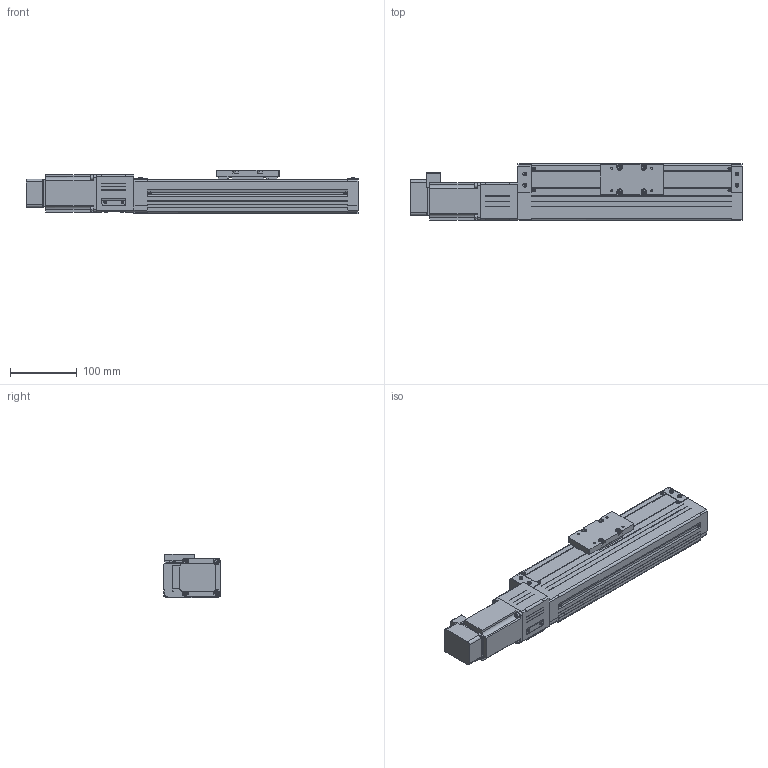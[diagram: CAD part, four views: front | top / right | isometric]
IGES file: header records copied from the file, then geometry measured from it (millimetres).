
Global section: file name: No Iges File Name specified; native system: AutoDesk Inventor R10; preprocessor: AutoDesk Inventor Iges Exporter R10; author: No Author specified; organization: No Organization specified; date: 20110702.132942; units: millimetre
Bounding box: 496.5 x 85 x 65 mm (x, y, z)
Surface area: 287976.4 mm2 (no closed solid volume)
Topology: 0 solids, 0 shells, 1083 faces, 6670 edges, 6642 vertices
Faces by surface type: bspline 1083
